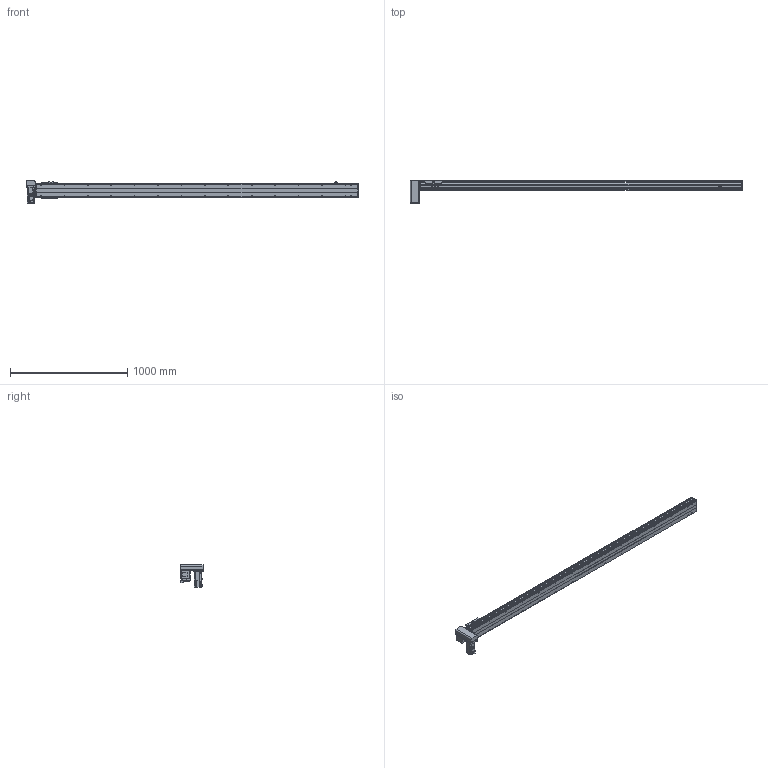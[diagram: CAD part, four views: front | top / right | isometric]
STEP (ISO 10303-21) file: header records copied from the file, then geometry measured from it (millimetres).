
FILE_DESCRIPTION(/* description */ ('STEP AP214'),/* implementation_level */ '2;1');
FILE_NAME(/* name */ 'PBS120-P40-S2450-RD-T40-C1-N(0)',/* time_stamp */ '2022-06-06T02:44:08+02:00',/* author */ ('License CC BY-ND 4.0'),/* organization */ ('CADENAS'),/* preprocessor_version */ 'ST-DEVELOPER v18.102',/* originating_system */ 'PARTsolutions',/* authorisation */ ' ');
FILE_SCHEMA (('AUTOMOTIVE_DESIGN {1 0 10303 214 3 1 1}'));
Length unit declared in the file: millimetre
Products named in the file (7): PBS120-P40-S2450-RD-T40-C1-N(0); PBS120_sensor; PBS120_plant; PBS120_sliser; T40-p1; PBS120T-RD_motors; PBS120-S2450()_body
Assembly tree (8 placements, depth 2):
  PBS120-P40-S2450-RD-T40-C1-N(0)
    PBS120_sensor  x3
    PBS120_plant
    PBS120_sliser
    T40-p1
    PBS120T-RD_motors
    PBS120-S2450()_body
Bounding box: 2836 x 196 x 189.7 mm (x, y, z)
Volume: 10680764.6 mm3; surface area: 2205240.2 mm2
Topology: 8 solids, 8 shells, 870 faces, 2226 edges, 1429 vertices
Faces by surface type: plane 563, cylinder 243, cone 62, torus 2
Full cylindrical faces by diameter (mm): 2.459 x6, 3.242 x4, 4 x2, 4.134 x4, 4.5 x10, 4.917 x34, 5.5 x11, 6 x2, 6.6 x1, 7 x2, 8.5 x4, 9 x4, 12 x1, 14 x1, 30 x2, 40 x1, 50 x2
Entity records: 22434 total; most frequent: DIRECTION 3908, CARTESIAN_POINT 3803, ORIENTED_EDGE 3586, EDGE_CURVE 1793, AXIS2_PLACEMENT_3D 1340, VERTEX_POINT 1235, LINE 1228, VECTOR 1228
